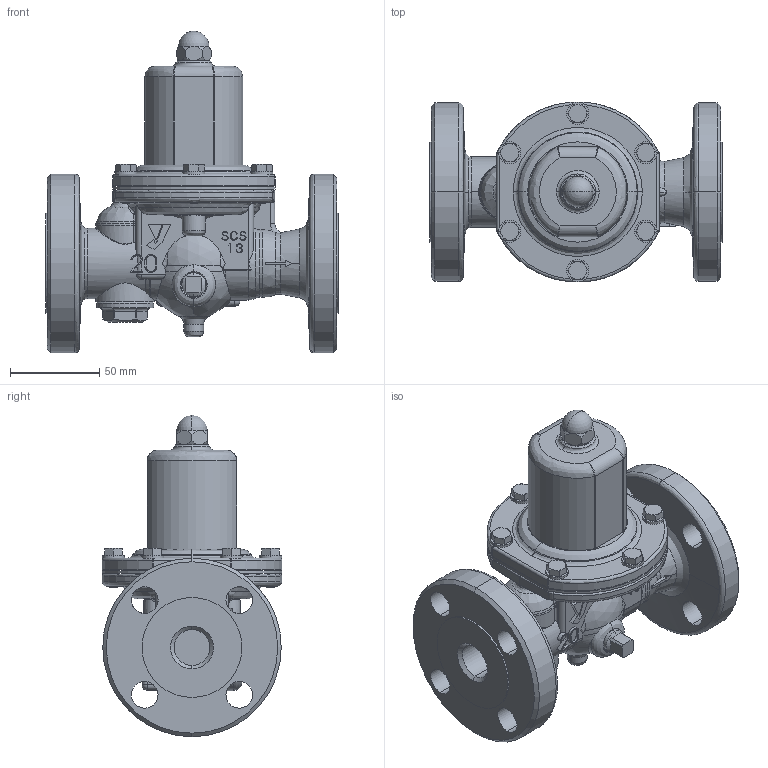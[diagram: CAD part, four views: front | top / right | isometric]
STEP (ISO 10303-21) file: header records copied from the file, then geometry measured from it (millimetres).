
FILE_DESCRIPTION( (''), '2;1');
FILE_NAME ('PC2091.11224.GD-29S-NE 20A_20632.stp','2026-03-26T17:12:52',(''),(''),'spGate 21.9.4 (****-****-****-****)','','');
FILE_SCHEMA (('AUTOMOTIVE_DESIGN'));
Length unit declared in the file: millimetre
Products named in the file (9): Assembly; ダイヤフラム20,25Ａ; ストレーナキャップ　3D　20A-2; プラグ3D; CP_''_JIS B 1183 六角袋ナット 3形 M''_705; CP_平座金(ミ''_JIS B 1256 みがき丸 6_740; 保護筒　3D; CP_''_JIS B 1180 呼び径六角ボルト''_17166; 3D　弁箱_M1
Assembly tree (19 placements, depth 2):
  Assembly
    ダイヤフラム20,25Ａ
    ストレーナキャップ　3D　20A-2
    プラグ3D  x2
    CP_''_JIS B 1183 六角袋ナット 3形 M''_705
    CP_平座金(ミ''_JIS B 1256 みがき丸 6_740  x6
    保護筒　3D
    CP_''_JIS B 1180 呼び径六角ボルト''_17166  x6
    3D　弁箱_M1
Bounding box: 164 x 100.8 x 180.06 mm (x, y, z)
Volume: 726351.8 mm3; surface area: 141460.4 mm2
Topology: 19 solids, 19 shells, 747 faces, 1838 edges, 1135 vertices
Faces by surface type: bspline 299, cylinder 221, plane 207, sphere 20
Entity records: 36622 total; most frequent: CARTESIAN_POINT 12823, ORIENTED_EDGE 2924, COLOUR_RGB 2053, PRESENTATION_STYLE_ASSIGNMENT 2053, STYLED_ITEM 2053, DIRECTION 2026, EDGE_CURVE 1462, DRAUGHTING_PRE_DEFINED_CURVE_FONT 1462
